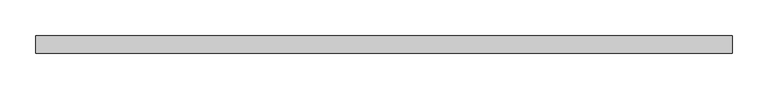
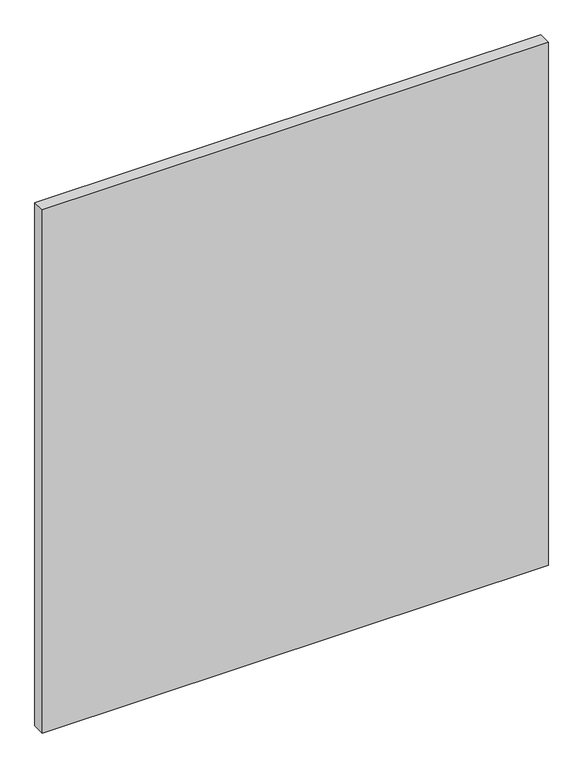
"""IFC4 building model written with IfcOpenShell, lengths in millimetres: plate geometry, 系統嵌板 : 有玻璃的."""

from ifc_helpers import new_model, si_unit, origin, origin_with_axes, place, context, project, spatial, polyline, outline, extrude, source, transform, mapped, element, save


def plate_c1ab5d1c(model_context):
    return source(origin(), model_context, "Body", "SweptSolid", [
        extrude(outline(polyline([(490.8333333, 24.5), (-490.8333333, 24.5), (-490.8333333, 49.5), (490.8333333, 49.5), (490.8333333, 24.5)])), origin_with_axes(), (0.0, 0.0, 1.0), 1072.6738463),
    ])


if __name__ == "__main__":
    model = new_model("IFC4")
    model_context = context("Model", 3, world=origin())
    ifc_project = project(units=[si_unit("LENGTHUNIT", "METRE", prefix="MILLI")], contexts=[model_context])
    site = spatial("IfcSite", under=ifc_project)
    building = spatial("IfcBuilding", under=site)
    placement = place(None, origin())
    plate_shape = plate_c1ab5d1c(model_context)
    element("IfcPlate", 1, ObjectType="系統嵌板 : 有玻璃的", at=placement, inside=building, context=model_context, shape_type="MappedRepresentation", body=[
        mapped(plate_shape, transform((0.0, 0.0, 0.0), x_axis=(1.0, 0.0, 0.0), y_axis=(0.0, 1.0, 0.0), z_axis=(0.0, 0.0, 1.0))),
    ])
    save(model, "model.ifc")
